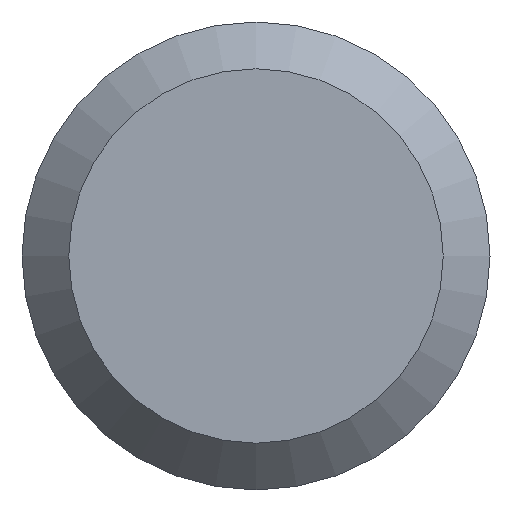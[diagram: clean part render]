
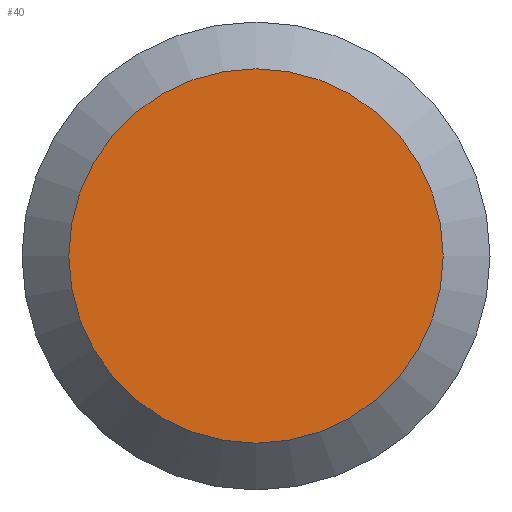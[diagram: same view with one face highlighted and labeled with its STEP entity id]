
A CAD part, left-side view. The second image highlights one B-rep face of the part: STEP entity #40.
In plain terms, the highlighted planar face has unit normal (-1, 0, 0).
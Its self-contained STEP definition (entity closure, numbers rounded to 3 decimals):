
#40 = ADVANCED_FACE ( 'NONE', ( #143 ), #173, .F. ) ;
#60 = DIRECTION ( 'NONE',  ( 0., 0., -1. ) ) ;
#65 = CIRCLE ( 'NONE', #73, 3.81 ) ;
#66 = DIRECTION ( 'NONE',  ( 0., 0., -1. ) ) ;
#73 = AXIS2_PLACEMENT_3D ( 'NONE', #86, #183, #66 ) ;
#74 = ORIENTED_EDGE ( 'NONE', *, *, #175, .T. ) ;
#86 = CARTESIAN_POINT ( 'NONE',  ( 0., 0., 0. ) ) ;
#106 = DIRECTION ( 'NONE',  ( 1., 0., 0. ) ) ;
#118 = VERTEX_POINT ( 'NONE', #202 ) ;
#143 = FACE_OUTER_BOUND ( 'NONE', #196, .T. ) ;
#158 = CARTESIAN_POINT ( 'NONE',  ( 0., 4.763, 0. ) ) ;
#173 = PLANE ( 'NONE',  #177 ) ;
#175 = EDGE_CURVE ( 'NONE', #118, #118, #65, .T. ) ;
#177 = AXIS2_PLACEMENT_3D ( 'NONE', #158, #106, #60 ) ;
#183 = DIRECTION ( 'NONE',  ( -1., 0., 0. ) ) ;
#196 = EDGE_LOOP ( 'NONE', ( #74 ) ) ;
#202 = CARTESIAN_POINT ( 'NONE',  ( 0., 0., -3.81 ) ) ;
